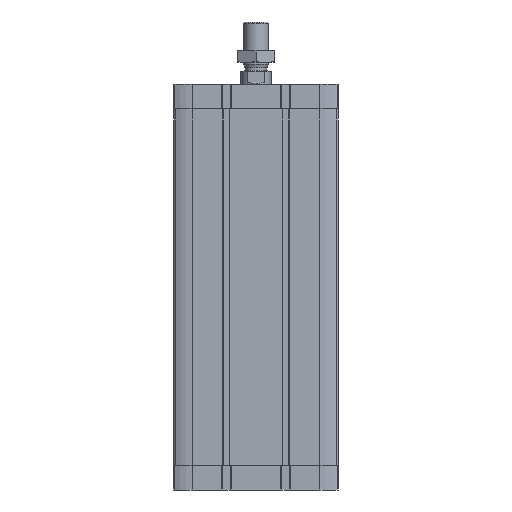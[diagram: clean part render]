
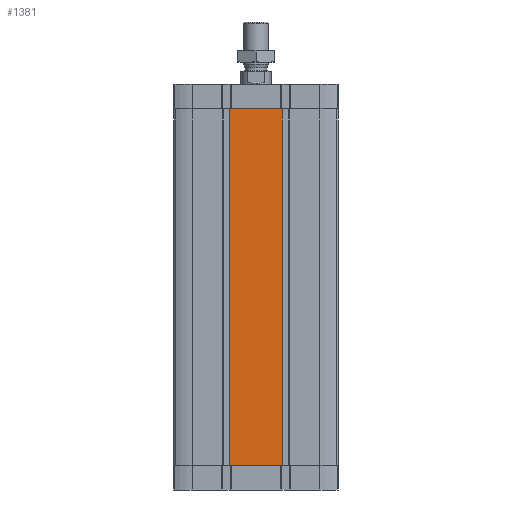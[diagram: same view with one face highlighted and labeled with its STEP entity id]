
A CAD part, front view. The second image highlights one B-rep face of the part: STEP entity #1381.
In plain terms, the highlighted planar face has unit normal (0, -1, 0).
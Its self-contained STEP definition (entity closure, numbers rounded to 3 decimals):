
#83 = DIRECTION ( 'NONE',  ( 1., 0., 0. ) ) ;
#84 = EDGE_CURVE ( 'NONE', #7254, #10335, #16087, .T. ) ;
#390 = VECTOR ( 'NONE', #13670, 1000. ) ;
#530 = DIRECTION ( 'NONE',  ( 1., 0., 0. ) ) ;
#611 = DIRECTION ( 'NONE',  ( 1., 0., 0. ) ) ;
#887 = CARTESIAN_POINT ( 'NONE',  ( -21.3, -67., -311. ) ) ;
#1202 = ORIENTED_EDGE ( 'NONE', *, *, #10911, .T. ) ;
#1381 = ADVANCED_FACE ( 'NONE', ( #14501 ), #14408, .T. ) ;
#1524 = CARTESIAN_POINT ( 'NONE',  ( -21.3, -67., -311. ) ) ;
#1535 = VERTEX_POINT ( 'NONE', #1524 ) ;
#1685 = EDGE_CURVE ( 'NONE', #12839, #7254, #10299, .T. ) ;
#1714 = CARTESIAN_POINT ( 'NONE',  ( 21.3, -67., -20. ) ) ;
#1995 = LINE ( 'NONE', #9074, #11942 ) ;
#2592 = ORIENTED_EDGE ( 'NONE', *, *, #5140, .F. ) ;
#2976 = CARTESIAN_POINT ( 'NONE',  ( 21.3, -67., -311. ) ) ;
#3080 = ORIENTED_EDGE ( 'NONE', *, *, #1685, .F. ) ;
#3190 = LINE ( 'NONE', #6222, #17432 ) ;
#3294 = CARTESIAN_POINT ( 'NONE',  ( -20.687, -67., -311. ) ) ;
#3335 = ORIENTED_EDGE ( 'NONE', *, *, #5653, .T. ) ;
#3619 = CARTESIAN_POINT ( 'NONE',  ( 20.687, -67., -311. ) ) ;
#4081 = ORIENTED_EDGE ( 'NONE', *, *, #7804, .T. ) ;
#4783 = DIRECTION ( 'NONE',  ( 1., 0., 0. ) ) ;
#4933 = CARTESIAN_POINT ( 'NONE',  ( -21.3, -67., -311. ) ) ;
#5140 = EDGE_CURVE ( 'NONE', #1535, #15595, #10627, .T. ) ;
#5507 = DIRECTION ( 'NONE',  ( 0., 0., 1. ) ) ;
#5638 = EDGE_CURVE ( 'NONE', #15595, #12839, #1995, .T. ) ;
#5653 = EDGE_CURVE ( 'NONE', #10978, #12871, #12003, .T. ) ;
#5991 = VERTEX_POINT ( 'NONE', #2976 ) ;
#6070 = CARTESIAN_POINT ( 'NONE',  ( -67., -67., -311. ) ) ;
#6222 = CARTESIAN_POINT ( 'NONE',  ( -67., -67., -311. ) ) ;
#7254 = VERTEX_POINT ( 'NONE', #8894 ) ;
#7541 = VECTOR ( 'NONE', #611, 1000. ) ;
#7804 = EDGE_CURVE ( 'NONE', #1535, #10978, #9823, .T. ) ;
#8740 = DIRECTION ( 'NONE',  ( 0., 0., -1. ) ) ;
#8894 = CARTESIAN_POINT ( 'NONE',  ( 20.687, -67., -20. ) ) ;
#9074 = CARTESIAN_POINT ( 'NONE',  ( -67., -67., -20. ) ) ;
#9512 = VECTOR ( 'NONE', #10713, 1000. ) ;
#9823 = LINE ( 'NONE', #16973, #11010 ) ;
#10088 = CARTESIAN_POINT ( 'NONE',  ( 21.3, -67., -311. ) ) ;
#10108 = CARTESIAN_POINT ( 'NONE',  ( -21.3, -67., -20. ) ) ;
#10299 = LINE ( 'NONE', #10108, #14159 ) ;
#10335 = VERTEX_POINT ( 'NONE', #1714 ) ;
#10627 = LINE ( 'NONE', #887, #9512 ) ;
#10713 = DIRECTION ( 'NONE',  ( 0., 0., 1. ) ) ;
#10911 = EDGE_CURVE ( 'NONE', #5991, #10335, #11190, .T. ) ;
#10978 = VERTEX_POINT ( 'NONE', #3294 ) ;
#11010 = VECTOR ( 'NONE', #83, 1000. ) ;
#11103 = EDGE_LOOP ( 'NONE', ( #2592, #4081, #3335, #13263, #1202, #16381, #3080, #11126 ) ) ;
#11126 = ORIENTED_EDGE ( 'NONE', *, *, #5638, .F. ) ;
#11190 = LINE ( 'NONE', #10088, #16619 ) ;
#11420 = EDGE_CURVE ( 'NONE', #12871, #5991, #3190, .T. ) ;
#11942 = VECTOR ( 'NONE', #15852, 1000. ) ;
#12003 = LINE ( 'NONE', #4933, #7541 ) ;
#12125 = CARTESIAN_POINT ( 'NONE',  ( -67., -67., -20. ) ) ;
#12839 = VERTEX_POINT ( 'NONE', #14907 ) ;
#12871 = VERTEX_POINT ( 'NONE', #3619 ) ;
#13263 = ORIENTED_EDGE ( 'NONE', *, *, #11420, .T. ) ;
#13670 = DIRECTION ( 'NONE',  ( 1., 0., 0. ) ) ;
#14159 = VECTOR ( 'NONE', #4783, 1000. ) ;
#14408 = PLANE ( 'NONE',  #15325 ) ;
#14501 = FACE_OUTER_BOUND ( 'NONE', #11103, .T. ) ;
#14907 = CARTESIAN_POINT ( 'NONE',  ( -20.687, -67., -20. ) ) ;
#15050 = CARTESIAN_POINT ( 'NONE',  ( -21.3, -67., -20. ) ) ;
#15325 = AXIS2_PLACEMENT_3D ( 'NONE', #6070, #15881, #8740 ) ;
#15595 = VERTEX_POINT ( 'NONE', #15050 ) ;
#15852 = DIRECTION ( 'NONE',  ( 1., 0., 0. ) ) ;
#15881 = DIRECTION ( 'NONE',  ( 0., -1., 0. ) ) ;
#16087 = LINE ( 'NONE', #12125, #390 ) ;
#16381 = ORIENTED_EDGE ( 'NONE', *, *, #84, .F. ) ;
#16619 = VECTOR ( 'NONE', #5507, 1000. ) ;
#16973 = CARTESIAN_POINT ( 'NONE',  ( -67., -67., -311. ) ) ;
#17432 = VECTOR ( 'NONE', #530, 1000. ) ;
